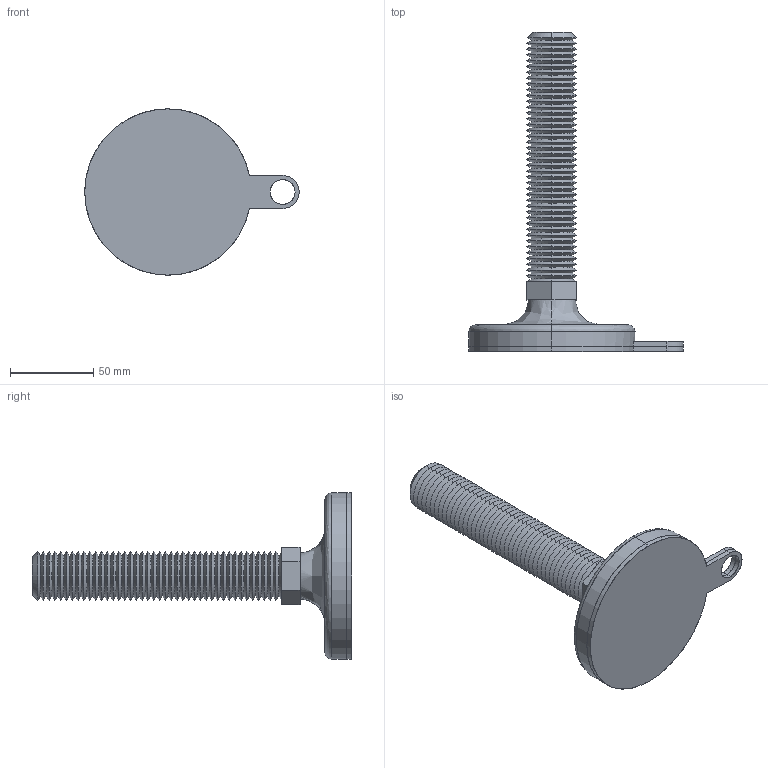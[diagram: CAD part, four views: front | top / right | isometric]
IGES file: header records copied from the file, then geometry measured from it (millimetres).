
Start section: SolidWorks IGES file using analytic representation for surfaces
Global section: file name: C:\Users\liam_\OneDrive\Documents\WORK\Work for WixRoyd\Job Files\J-00026 - Matt Davis CAD - 20191124\04. CAD Drawings\Wixroyd20191124\34704_v2\34704_v2_20191128_IGES\34704.W3001.igs; native system: SolidWorks 2017; preprocessor: SolidWorks 2017; author: liam_; date: 191128.203115; units: millimetre
Bounding box: 129 x 192 x 100 mm (x, y, z)
Surface area: 65232.6 mm2 (no closed solid volume)
Topology: 0 solids, 0 shells, 208 faces, 1482 edges, 1482 vertices
Faces by surface type: revolution 181, bspline 27
